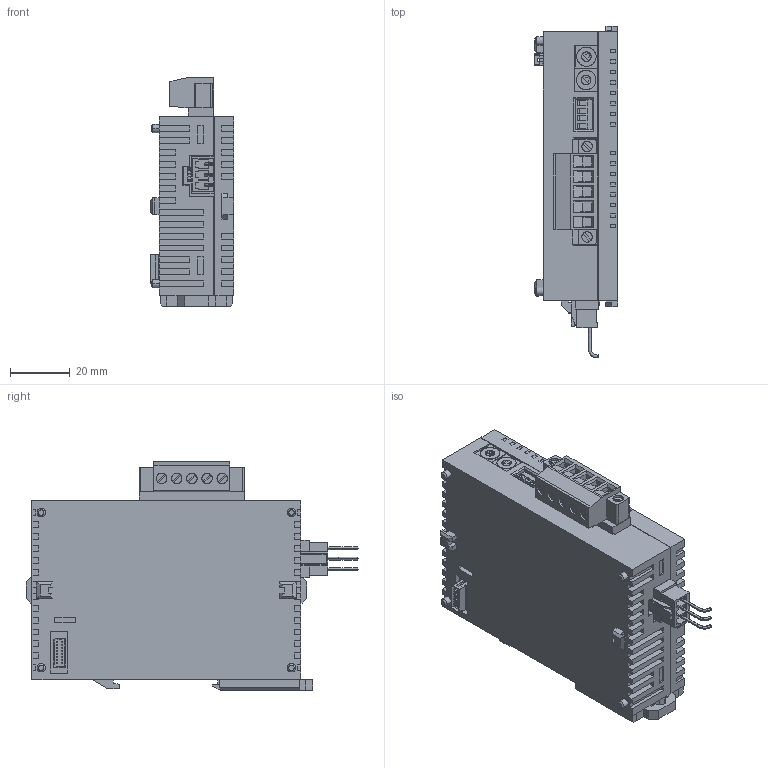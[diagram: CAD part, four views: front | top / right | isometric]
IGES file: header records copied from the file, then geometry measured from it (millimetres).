
Global section: organization: PanasonicElectricWorks; date: 080828.145506; units: millimetre
Bounding box: 28 x 111.19 x 76.5 mm (x, y, z)
Surface area: 26129.5 mm2 (no closed solid volume)
Topology: 0 solids, 0 shells, 996 faces, 6689 edges, 6687 vertices
Faces by surface type: bspline 923, revolution 73
